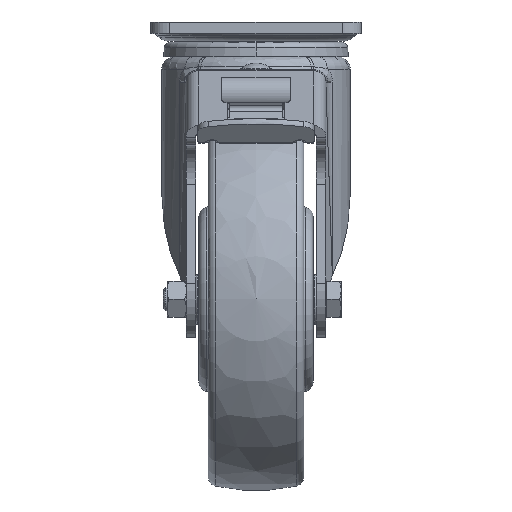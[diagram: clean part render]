
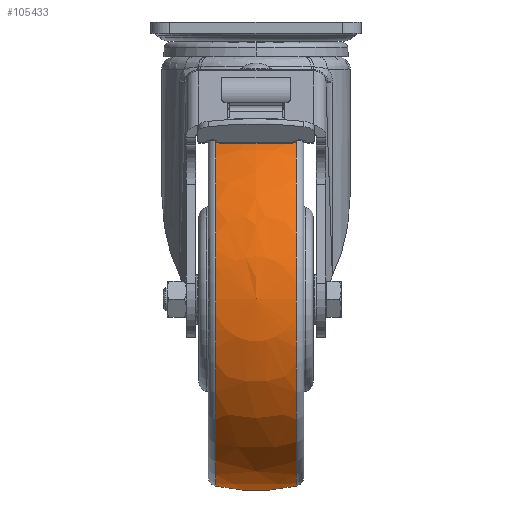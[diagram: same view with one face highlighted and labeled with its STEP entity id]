
A CAD part, top view. The second image highlights one B-rep face of the part: STEP entity #105433.
In plain terms, the highlighted spherical face has radius 100 mm.
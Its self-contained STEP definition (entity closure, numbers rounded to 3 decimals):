
#7040 = DIRECTION ( 'NONE',  ( 0., 1., 0. ) ) ;
#10227 = EDGE_CURVE ( 'NONE', #34643, #18613, #113687, .T. ) ;
#14062 = AXIS2_PLACEMENT_3D ( 'NONE', #27406, #37927, #36613 ) ;
#18613 = VERTEX_POINT ( 'NONE', #58170 ) ;
#18836 = CIRCLE ( 'NONE', #14062, 97.759 ) ;
#20550 = EDGE_LOOP ( 'NONE', ( #44796, #88852, #92854, #23299 ) ) ;
#23299 = ORIENTED_EDGE ( 'NONE', *, *, #86241, .F. ) ;
#23391 = CARTESIAN_POINT ( 'NONE',  ( 21.053, -97.759, 0. ) ) ;
#27406 = CARTESIAN_POINT ( 'NONE',  ( 21.053, 0., 0. ) ) ;
#28173 = DIRECTION ( 'NONE',  ( 0.211, -0.978, 0. ) ) ;
#31087 = AXIS2_PLACEMENT_3D ( 'NONE', #52940, #61735, #81786 ) ;
#34643 = VERTEX_POINT ( 'NONE', #41539 ) ;
#34829 = FACE_OUTER_BOUND ( 'NONE', #20550, .T. ) ;
#36303 = CARTESIAN_POINT ( 'NONE',  ( -21.053, 0., 0. ) ) ;
#36613 = DIRECTION ( 'NONE',  ( 0., 1., 0. ) ) ;
#37927 = DIRECTION ( 'NONE',  ( -1., 0., 0. ) ) ;
#41539 = CARTESIAN_POINT ( 'NONE',  ( -21.053, 97.759, 0. ) ) ;
#44796 = ORIENTED_EDGE ( 'NONE', *, *, #73431, .T. ) ;
#52940 = CARTESIAN_POINT ( 'NONE',  ( 0., 0., 0. ) ) ;
#57077 = VERTEX_POINT ( 'NONE', #95607 ) ;
#58170 = CARTESIAN_POINT ( 'NONE',  ( -21.053, -97.759, 0. ) ) ;
#61735 = DIRECTION ( 'NONE',  ( 0., 0., 1. ) ) ;
#64755 = VERTEX_POINT ( 'NONE', #23391 ) ;
#64963 = CIRCLE ( 'NONE', #31087, 100. ) ;
#73431 = EDGE_CURVE ( 'NONE', #57077, #64755, #18836, .T. ) ;
#75462 = SPHERICAL_SURFACE ( 'NONE', #91409, 100. ) ;
#78434 = CARTESIAN_POINT ( 'NONE',  ( 0., 0., 0. ) ) ;
#81786 = DIRECTION ( 'NONE',  ( 0.211, 0.978, 0. ) ) ;
#85922 = AXIS2_PLACEMENT_3D ( 'NONE', #36303, #86560, #7040 ) ;
#86241 = EDGE_CURVE ( 'NONE', #57077, #34643, #64963, .T. ) ;
#86560 = DIRECTION ( 'NONE',  ( -1., 0., 0. ) ) ;
#88852 = ORIENTED_EDGE ( 'NONE', *, *, #95055, .T. ) ;
#91409 = AXIS2_PLACEMENT_3D ( 'NONE', #125944, #95811, #124227 ) ;
#92854 = ORIENTED_EDGE ( 'NONE', *, *, #10227, .F. ) ;
#95055 = EDGE_CURVE ( 'NONE', #64755, #18613, #129225, .T. ) ;
#95607 = CARTESIAN_POINT ( 'NONE',  ( 21.053, 97.759, 0. ) ) ;
#95811 = DIRECTION ( 'NONE',  ( 0., 0., -1. ) ) ;
#98036 = DIRECTION ( 'NONE',  ( 0., 0., -1. ) ) ;
#105433 = ADVANCED_FACE ( 'NONE', ( #34829 ), #75462, .T. ) ;
#113687 = CIRCLE ( 'NONE', #85922, 97.759 ) ;
#124227 = DIRECTION ( 'NONE',  ( 0., -1., 0. ) ) ;
#125673 = AXIS2_PLACEMENT_3D ( 'NONE', #78434, #98036, #28173 ) ;
#125944 = CARTESIAN_POINT ( 'NONE',  ( 0., 0., 0. ) ) ;
#129225 = CIRCLE ( 'NONE', #125673, 100. ) ;
